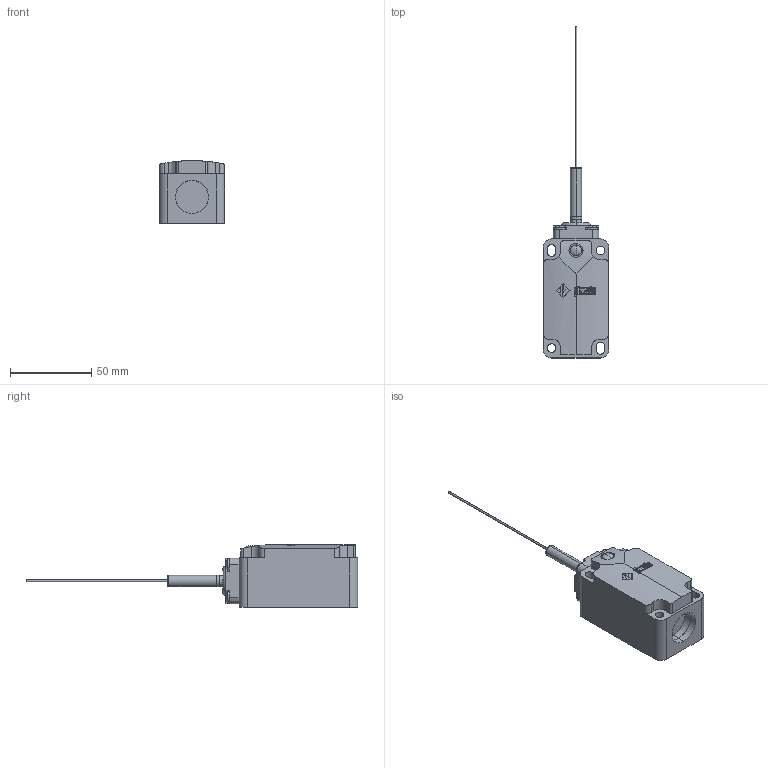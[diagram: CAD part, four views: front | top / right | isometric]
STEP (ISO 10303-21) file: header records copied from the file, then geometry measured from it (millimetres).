
FILE_DESCRIPTION (( 'STEP AP214' ), '1' );
FILE_NAME ('ZF_STEP_FP_x21.step', '2015-05-14T14:37:28', ( 'utente' ), ( 'Microsoft' ), 'SwSTEP 2.0', 'SolidWorks 2014', '' );
FILE_SCHEMA (( 'AUTOMOTIVE_DESIGN' ));
Length unit declared in the file: millimetre
Products named in the file (3): ZF_STEP_VF_T21; Pizzato_Custodia_FP; ZF_STEP_FP_x21
Assembly tree (2 placements, depth 2):
  ZF_STEP_FP_x21
    Pizzato_Custodia_FP
    ZF_STEP_VF_T21
Bounding box: 40 x 203.7 x 38.5 mm (x, y, z)
Volume: 106916.3 mm3; surface area: 21726 mm2
Topology: 2 solids, 2 shells, 415 faces, 1099 edges, 731 vertices
Faces by surface type: plane 229, bspline 97, cylinder 75, sphere 10, torus 4
Entity records: 17998 total; most frequent: CARTESIAN_POINT 8160, ORIENTED_EDGE 2198, DIRECTION 1681, EDGE_CURVE 1099, VERTEX_POINT 731, LINE 651, VECTOR 651, AXIS2_PLACEMENT_3D 515
